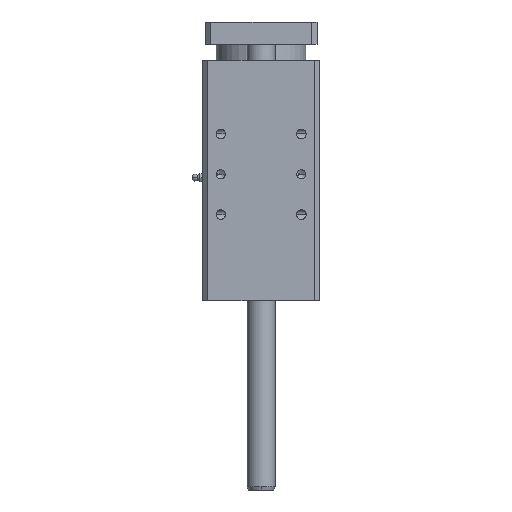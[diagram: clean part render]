
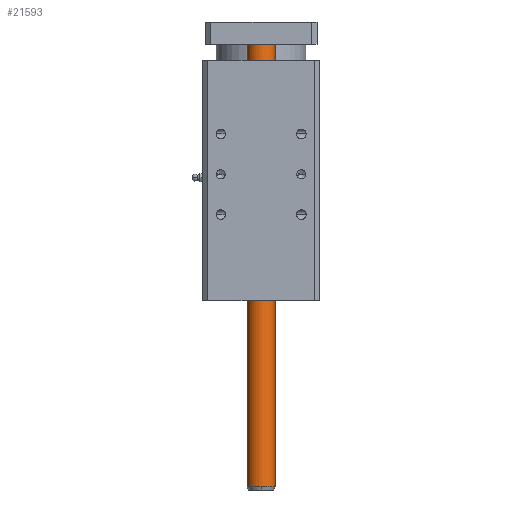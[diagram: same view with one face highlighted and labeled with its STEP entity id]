
A CAD part, left-side view. The second image highlights one B-rep face of the part: STEP entity #21593.
In plain terms, the highlighted cylindrical face has radius 12.5 mm (diameter 25 mm), a partial arc.
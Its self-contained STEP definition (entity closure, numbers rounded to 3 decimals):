
#7 = DIRECTION ( 'NONE',  ( 0., 0., 1. ) ) ;
#522 = CARTESIAN_POINT ( 'NONE',  ( -74., 12.5, -334. ) ) ;
#1253 = CYLINDRICAL_SURFACE ( 'NONE', #15737, 12.5 ) ;
#2033 = CARTESIAN_POINT ( 'NONE',  ( -74., 0., 61. ) ) ;
#2110 = DIRECTION ( 'NONE',  ( 0., -1., 0. ) ) ;
#3368 = LINE ( 'NONE', #16710, #19847 ) ;
#4039 = DIRECTION ( 'NONE',  ( 0., -1., 0. ) ) ;
#5214 = AXIS2_PLACEMENT_3D ( 'NONE', #2033, #20247, #2110 ) ;
#5683 = VERTEX_POINT ( 'NONE', #14853 ) ;
#5893 = CARTESIAN_POINT ( 'NONE',  ( -74., 0., -337. ) ) ;
#7824 = EDGE_CURVE ( 'NONE', #9524, #10861, #15106, .T. ) ;
#7984 = DIRECTION ( 'NONE',  ( 0., -1., 0. ) ) ;
#8478 = DIRECTION ( 'NONE',  ( 0., 0., 1. ) ) ;
#9340 = ORIENTED_EDGE ( 'NONE', *, *, #19722, .F. ) ;
#9524 = VERTEX_POINT ( 'NONE', #12798 ) ;
#10164 = AXIS2_PLACEMENT_3D ( 'NONE', #20523, #8478, #14713 ) ;
#10384 = FACE_OUTER_BOUND ( 'NONE', #12992, .T. ) ;
#10738 = ORIENTED_EDGE ( 'NONE', *, *, #7824, .T. ) ;
#10861 = VERTEX_POINT ( 'NONE', #17160 ) ;
#12268 = EDGE_CURVE ( 'NONE', #10861, #21237, #3368, .T. ) ;
#12798 = CARTESIAN_POINT ( 'NONE',  ( -86.5, 0., -334. ) ) ;
#12992 = EDGE_LOOP ( 'NONE', ( #14141, #16450, #10738, #15165, #9340 ) ) ;
#13559 = CIRCLE ( 'NONE', #23795, 12.5 ) ;
#14141 = ORIENTED_EDGE ( 'NONE', *, *, #24412, .F. ) ;
#14713 = DIRECTION ( 'NONE',  ( 0., -1., 0. ) ) ;
#14853 = CARTESIAN_POINT ( 'NONE',  ( -74., 12.5, 61. ) ) ;
#15106 = CIRCLE ( 'NONE', #10164, 12.5 ) ;
#15165 = ORIENTED_EDGE ( 'NONE', *, *, #12268, .T. ) ;
#15172 = VERTEX_POINT ( 'NONE', #522 ) ;
#15737 = AXIS2_PLACEMENT_3D ( 'NONE', #5893, #16072, #4039 ) ;
#16072 = DIRECTION ( 'NONE',  ( 0., 0., 1. ) ) ;
#16176 = VECTOR ( 'NONE', #18727, 1000. ) ;
#16210 = CARTESIAN_POINT ( 'NONE',  ( -74., -12.5, 61. ) ) ;
#16446 = DIRECTION ( 'NONE',  ( 0., 0., 1. ) ) ;
#16450 = ORIENTED_EDGE ( 'NONE', *, *, #17536, .T. ) ;
#16710 = CARTESIAN_POINT ( 'NONE',  ( -74., -12.5, -337. ) ) ;
#17160 = CARTESIAN_POINT ( 'NONE',  ( -74., -12.5, -334. ) ) ;
#17536 = EDGE_CURVE ( 'NONE', #15172, #9524, #13559, .T. ) ;
#18727 = DIRECTION ( 'NONE',  ( 0., 0., 1. ) ) ;
#19722 = EDGE_CURVE ( 'NONE', #5683, #21237, #24474, .T. ) ;
#19847 = VECTOR ( 'NONE', #16446, 1000. ) ;
#20247 = DIRECTION ( 'NONE',  ( 0., 0., 1. ) ) ;
#20523 = CARTESIAN_POINT ( 'NONE',  ( -74., 0., -334. ) ) ;
#21237 = VERTEX_POINT ( 'NONE', #16210 ) ;
#21593 = ADVANCED_FACE ( 'NONE', ( #10384 ), #1253, .T. ) ;
#22579 = CARTESIAN_POINT ( 'NONE',  ( -74., 12.5, -337. ) ) ;
#23173 = LINE ( 'NONE', #22579, #16176 ) ;
#23795 = AXIS2_PLACEMENT_3D ( 'NONE', #24559, #7, #7984 ) ;
#24412 = EDGE_CURVE ( 'NONE', #15172, #5683, #23173, .T. ) ;
#24474 = CIRCLE ( 'NONE', #5214, 12.5 ) ;
#24559 = CARTESIAN_POINT ( 'NONE',  ( -74., 0., -334. ) ) ;
